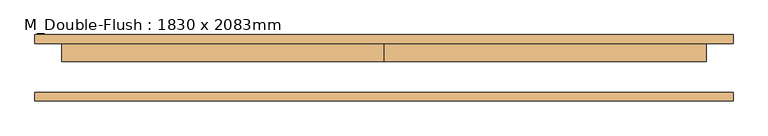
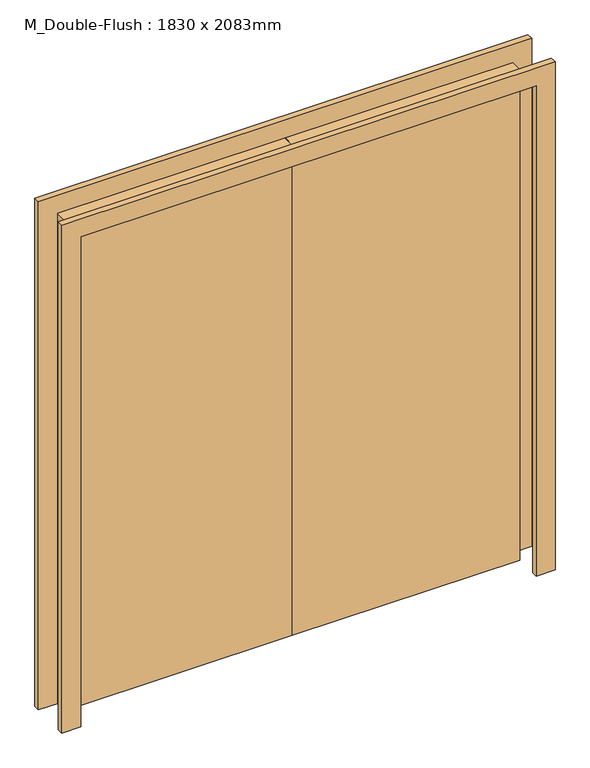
"""IFC4 building model written with IfcOpenShell, lengths in millimetres: door geometry, M_Double-Flush : 1830 x 2083mm."""

from ifc_helpers import new_model, si_unit, frame, origin, origin_with_axes, place, context, project, spatial, polyline, outline, extrude, source, transform, mapped, element, save


def m_double_flush_1830_x_2083mm_7a28c534(model_context):
    return source(origin(), model_context, "Body", "SweptSolid", [
        extrude(outline(polyline([(0.0, 69.25), (915.0, 69.25), (915.0, 18.25), (0.0, 18.25), (0.0, 69.25)])), origin_with_axes(), (0.0, 0.0, 1.0), 2083.0),
        extrude(outline(polyline([(-915.0, 69.25), (0.0, 69.25), (0.0, 18.25), (-915.0, 18.25), (-915.0, 69.25)])), origin_with_axes(), (0.0, 0.0, 1.0), 2083.0),
        extrude(outline(polyline([(2083.0, -915.0), (2083.0, 915.0), (0.0, 915.0), (0.0, 991.0), (2159.0, 991.0), (2159.0, -991.0), (0.0, -991.0), (0.0, -915.0), (2083.0, -915.0)])), frame((0.0, -94.25, 0.0), z_axis=(0.0, 1.0, 0.0), x_axis=(0.0, 0.0, 1.0)), (0.0, 0.0, 1.0), 25.0),
        extrude(outline(polyline([(2083.0, -915.0), (2083.0, 915.0), (0.0, 915.0), (0.0, 991.0), (2159.0, 991.0), (2159.0, -991.0), (0.0, -991.0), (0.0, -915.0), (2083.0, -915.0)])), frame((0.0, 69.25, 0.0), z_axis=(0.0, 1.0, 0.0), x_axis=(0.0, 0.0, 1.0)), (0.0, 0.0, 1.0), 25.0),
    ])


if __name__ == "__main__":
    model = new_model("IFC4")
    model_context = context("Model", 3, world=origin())
    ifc_project = project(units=[si_unit("LENGTHUNIT", "METRE", prefix="MILLI")], contexts=[model_context])
    site = spatial("IfcSite", under=ifc_project)
    building = spatial("IfcBuilding", under=site)
    placement = place(None, origin())
    m_double_flush_1830_x_2083mm_shape = m_double_flush_1830_x_2083mm_7a28c534(model_context)
    element("IfcDoor", 1, ObjectType="M_Double-Flush : 1830 x 2083mm", at=placement, inside=building, context=model_context, shape_type="MappedRepresentation", body=[
        mapped(m_double_flush_1830_x_2083mm_shape, transform((0.0, 0.0, 0.0), x_axis=(1.0, 0.0, 0.0), y_axis=(0.0, 1.0, 0.0), z_axis=(0.0, 0.0, 1.0))),
    ])
    save(model, "model.ifc")
